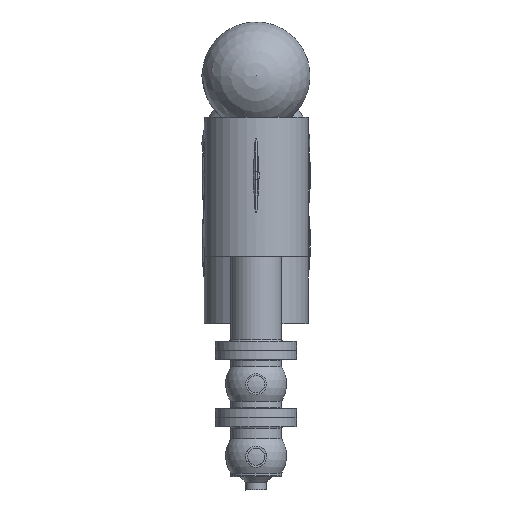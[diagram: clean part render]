
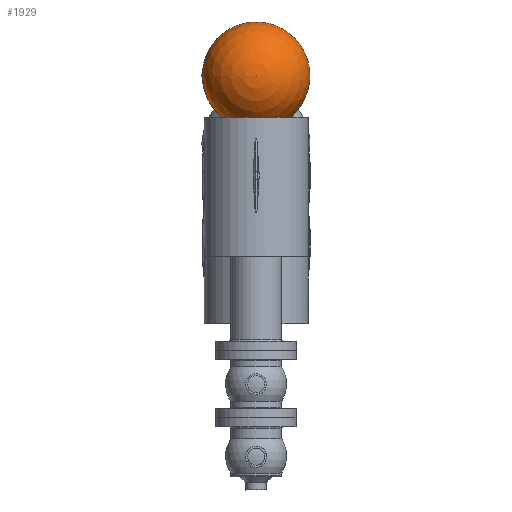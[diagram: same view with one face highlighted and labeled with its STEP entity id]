
A CAD part, front view. The second image highlights one B-rep face of the part: STEP entity #1929.
In plain terms, the highlighted spherical face has radius 72.5 mm.
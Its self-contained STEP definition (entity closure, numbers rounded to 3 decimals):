
#193=SPHERICAL_SURFACE('',#2306,72.5);
#218=FACE_BOUND('',#473,.T.);
#342=FACE_OUTER_BOUND('',#472,.T.);
#472=EDGE_LOOP('',(#1666,#1667));
#473=EDGE_LOOP('',(#1668));
#621=CIRCLE('',#2307,72.5);
#622=CIRCLE('',#2308,46.648);
#953=VERTEX_POINT('',#4015);
#954=VERTEX_POINT('',#4016);
#955=VERTEX_POINT('',#4018);
#1203=EDGE_CURVE('',#953,#954,#621,.T.);
#1204=EDGE_CURVE('',#955,#955,#622,.T.);
#1666=ORIENTED_EDGE('',*,*,#1203,.T.);
#1667=ORIENTED_EDGE('',*,*,#1203,.F.);
#1668=ORIENTED_EDGE('',*,*,#1204,.F.);
#1929=ADVANCED_FACE('',(#342,#218),#193,.T.);
#2306=AXIS2_PLACEMENT_3D('',#4014,#2847,#2848);
#2307=AXIS2_PLACEMENT_3D('',#4017,#2849,#2850);
#2308=AXIS2_PLACEMENT_3D('',#4019,#2851,#2852);
#2847=DIRECTION('center_axis',(0.,0.,1.));
#2848=DIRECTION('ref_axis',(1.,0.,0.));
#2849=DIRECTION('center_axis',(0.,-1.,0.));
#2850=DIRECTION('ref_axis',(-1.,0.,0.));
#2851=DIRECTION('center_axis',(0.,-1.,0.));
#2852=DIRECTION('ref_axis',(1.,0.,0.));
#4014=CARTESIAN_POINT('Origin',(150.,266.5,0.));
#4015=CARTESIAN_POINT('',(150.,266.5,72.5));
#4016=CARTESIAN_POINT('',(150.,266.5,-72.5));
#4017=CARTESIAN_POINT('Origin',(150.,266.5,0.));
#4018=CARTESIAN_POINT('',(196.648,211.,0.));
#4019=CARTESIAN_POINT('Origin',(150.,211.,0.));
